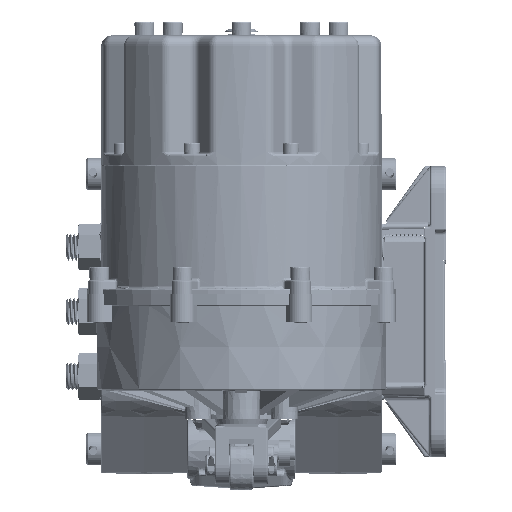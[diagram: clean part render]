
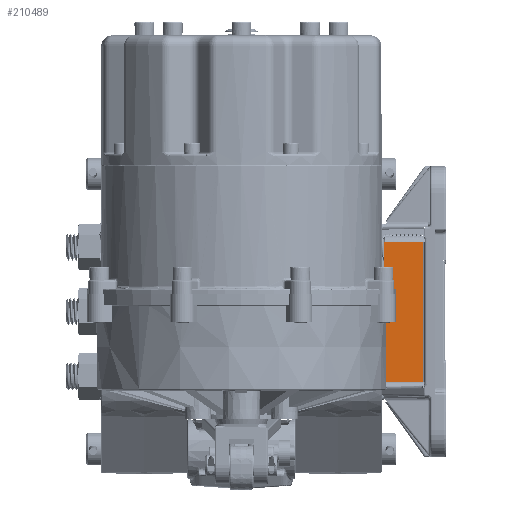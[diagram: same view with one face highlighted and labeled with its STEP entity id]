
A CAD part, left-side view. The second image highlights one B-rep face of the part: STEP entity #210489.
In plain terms, the highlighted planar face has unit normal (-1, 0.018, 0).
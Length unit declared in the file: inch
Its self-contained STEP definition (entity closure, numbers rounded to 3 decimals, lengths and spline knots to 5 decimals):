
#2386 = VECTOR ( 'NONE', #43726, 39.37008 ) ;
#11169 = CARTESIAN_POINT ( 'NONE',  ( -4.01341, -3.29913, -1.625 ) ) ;
#14530 = VERTEX_POINT ( 'NONE', #97660 ) ;
#17833 = ORIENTED_EDGE ( 'NONE', *, *, #209721, .T. ) ;
#18706 = EDGE_CURVE ( 'NONE', #134380, #58294, #205778, .T. ) ;
#21061 = ORIENTED_EDGE ( 'NONE', *, *, #74685, .T. ) ;
#23018 = CARTESIAN_POINT ( 'NONE',  ( -4.03437, -4.5, -1.625 ) ) ;
#26838 = CARTESIAN_POINT ( 'NONE',  ( -4.01341, -3.29913, -1.625 ) ) ;
#36836 = EDGE_CURVE ( 'NONE', #58294, #234649, #252091, .T. ) ;
#40116 = DIRECTION ( 'NONE',  ( 0.017, 1., 0. ) ) ;
#43726 = DIRECTION ( 'NONE',  ( -0.017, -1., 0. ) ) ;
#44981 = DIRECTION ( 'NONE',  ( 0., 0., -1. ) ) ;
#47827 = VECTOR ( 'NONE', #40116, 39.37008 ) ;
#49258 = LINE ( 'NONE', #189165, #253807 ) ;
#58294 = VERTEX_POINT ( 'NONE', #213288 ) ;
#74685 = EDGE_CURVE ( 'NONE', #14530, #134380, #49258, .T. ) ;
#90515 = DIRECTION ( 'NONE',  ( 0., 0., 1. ) ) ;
#92015 = CARTESIAN_POINT ( 'NONE',  ( -4.02915, -4.20087, 1.625 ) ) ;
#97660 = CARTESIAN_POINT ( 'NONE',  ( -4.02915, -4.20087, -1.625 ) ) ;
#100157 = VECTOR ( 'NONE', #44981, 39.37008 ) ;
#117615 = CARTESIAN_POINT ( 'NONE',  ( -4.03437, -4.5, 0. ) ) ;
#125476 = FACE_OUTER_BOUND ( 'NONE', #140604, .T. ) ;
#126031 = ORIENTED_EDGE ( 'NONE', *, *, #18706, .T. ) ;
#134380 = VERTEX_POINT ( 'NONE', #92015 ) ;
#137530 = DIRECTION ( 'NONE',  ( -0.017, -1., 0. ) ) ;
#140604 = EDGE_LOOP ( 'NONE', ( #126031, #163365, #17833, #21061 ) ) ;
#159588 = CARTESIAN_POINT ( 'NONE',  ( -4.03437, -4.5, 1.625 ) ) ;
#160260 = LINE ( 'NONE', #23018, #2386 ) ;
#163365 = ORIENTED_EDGE ( 'NONE', *, *, #36836, .T. ) ;
#189165 = CARTESIAN_POINT ( 'NONE',  ( -4.02915, -4.20087, 0. ) ) ;
#205778 = LINE ( 'NONE', #159588, #47827 ) ;
#209721 = EDGE_CURVE ( 'NONE', #234649, #14530, #160260, .T. ) ;
#210489 = ADVANCED_FACE ( 'NONE', ( #125476 ), #255391, .T. ) ;
#213288 = CARTESIAN_POINT ( 'NONE',  ( -4.01341, -3.29913, 1.625 ) ) ;
#233576 = AXIS2_PLACEMENT_3D ( 'NONE', #117615, #256254, #137530 ) ;
#234649 = VERTEX_POINT ( 'NONE', #11169 ) ;
#252091 = LINE ( 'NONE', #26838, #100157 ) ;
#253807 = VECTOR ( 'NONE', #90515, 39.37008 ) ;
#255391 = PLANE ( 'NONE',  #233576 ) ;
#256254 = DIRECTION ( 'NONE',  ( -1., 0.017, 0. ) ) ;
